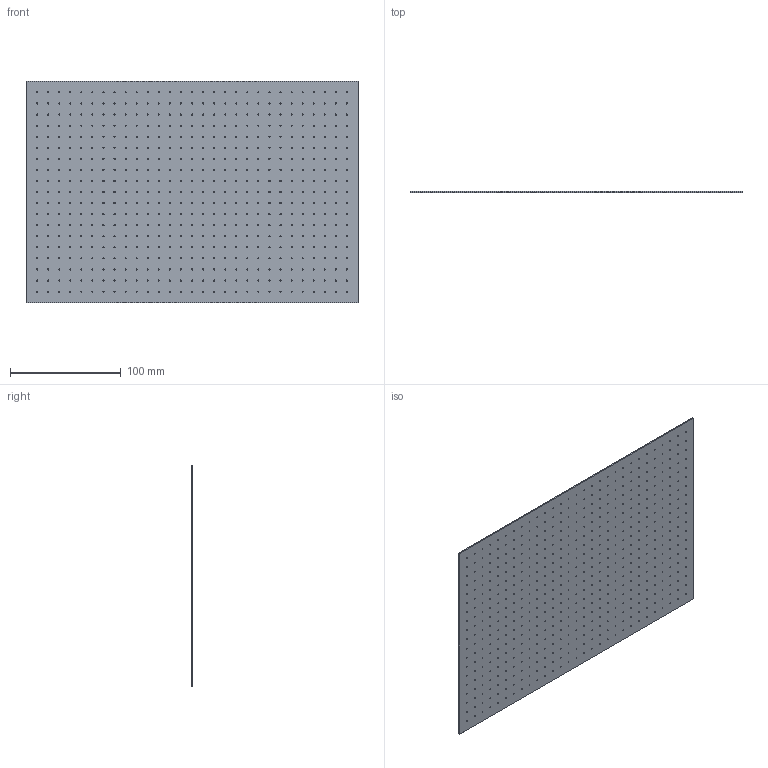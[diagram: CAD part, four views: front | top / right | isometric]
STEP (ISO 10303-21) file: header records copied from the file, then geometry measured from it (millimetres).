
FILE_DESCRIPTION (( 'STEP AP203' ), '1' );
FILE_NAME ('VT00421.STEP', '2016-07-04T14:29:40', ( '' ), ( '' ), 'SwSTEP 2.0', 'SolidWorks 2016', '' );
FILE_SCHEMA (( 'CONFIG_CONTROL_DESIGN' ));
Length unit declared in the file: millimetre
Products named in the file (1): VT00421
Bounding box: 300 x 1 x 200 mm (x, y, z)
Volume: 59567.2 mm3; surface area: 121865.5 mm2
Topology: 1 solids, 1 shells, 1108 faces, 3318 edges, 2212 vertices
Faces by surface type: cylinder 1102, plane 6
Entity records: 41007 total; most frequent: DIRECTION 7740, CARTESIAN_POINT 6639, ORIENTED_EDGE 6636, EDGE_CURVE 3318, AXIS2_PLACEMENT_3D 3313, VERTEX_POINT 2212, EDGE_LOOP 2210, CIRCLE 2204
